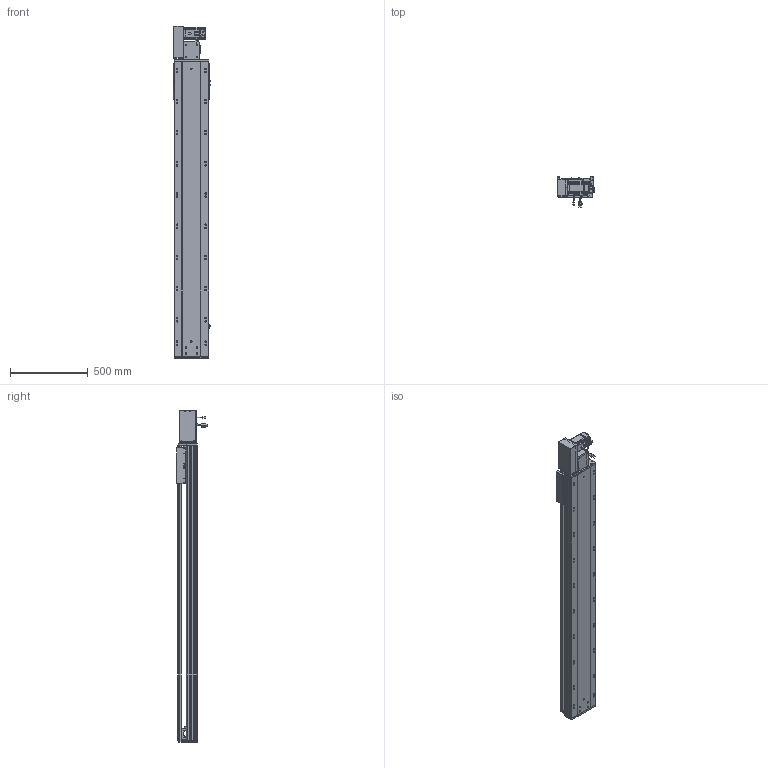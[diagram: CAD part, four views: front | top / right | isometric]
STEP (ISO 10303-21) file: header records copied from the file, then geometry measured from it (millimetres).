
FILE_DESCRIPTION (( 'STEP AP203' ), '1' );
FILE_NAME ('RY220-T-300-LK.SLDASM_1550.step', '2022-07-25T08:14:37', ( '' ), ( '' ), 'SwSTEP 2.0', 'SolidWorks 2016', '' );
FILE_SCHEMA (( 'CONFIG_CONTROL_DESIGN' ));
Length unit declared in the file: millimetre
Products named in the file (14): RY220圉猾敕々湍臏賑輸; RY220翋肮祭謫釱; RY220-T-300-LK.SLDASM_1550; RY220-同步轮副支撑座6304×2; 怢湛750W_ECMA-CX0807ES; RY220-T菁釱-300_1550; 滅袉蝶18-15; RY220-T-300-奻裔啣_1550; 110A-T-肮祭謫釱傷裔; RY220翋肮祭謫裔啣; 覜茼ん672; RY220-俋离672覜茼んえ; RY220-T-蛌殏萇儂假蚾啣(750W); RY220-T-湍謫欶(鍼踢)
Assembly tree (18 placements, depth 2):
  RY220-T-300-LK.SLDASM_1550
    RY220-T菁釱-300_1550
    RY220翋肮祭謫釱
    覜茼ん672  x3
    RY220圉猾敕々湍臏賑輸
    RY220-T-300-奻裔啣_1550
    RY220-俋离672覜茼んえ
    滅袉蝶18-15  x3
    RY220翋肮祭謫裔啣  x2
    110A-T-肮祭謫釱傷裔
    怢湛750W_ECMA-CX0807ES
    RY220-T-湍謫欶(鍼踢)
    RY220-T-蛌殏萇儂假蚾啣(750W)
    RY220-同步轮副支撑座6304×2
Bounding box: 239.7 x 198.77 x 2129 mm (x, y, z)
Volume: 15819731.4 mm3; surface area: 4740508.7 mm2
Topology: 19 solids, 19 shells, 2738 faces, 7559 edges, 4776 vertices
Faces by surface type: cylinder 1302, plane 1069, cone 285, bspline 56, sphere 16, torus 10
Entity records: 91123 total; most frequent: CARTESIAN_POINT 25897, ORIENTED_EDGE 13530, DIRECTION 12872, EDGE_CURVE 6765, AXIS2_PLACEMENT_3D 4580, VERTEX_POINT 4400, LINE 3712, VECTOR 3712
